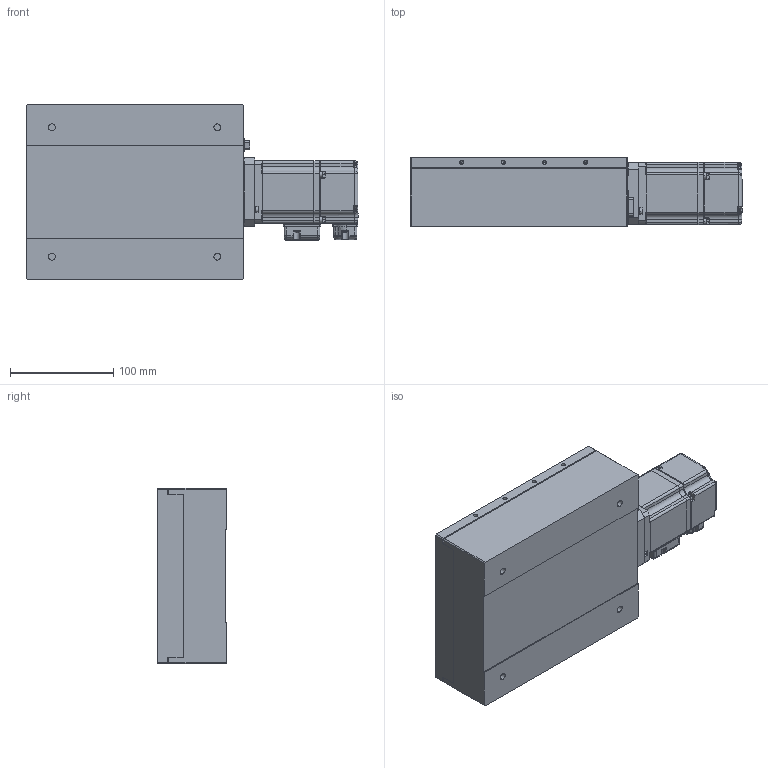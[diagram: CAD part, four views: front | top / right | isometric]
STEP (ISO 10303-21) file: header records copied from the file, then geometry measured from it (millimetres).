
FILE_DESCRIPTION (( 'STEP AP203' ), '1' );
FILE_NAME ('NPS-AC-20-05x.STEP', '2019-09-11T06:24:35', ( '' ), ( '' ), 'SwSTEP 2.0', 'SolidWorks 2015', '' );
FILE_SCHEMA (( 'CONFIG_CONTROL_DESIGN' ));
Length unit declared in the file: millimetre
Products named in the file (3): NPS-AC-20-05x_移動部; NPS-AC-20-05x_固定部; NPS-AC-20-05x
Assembly tree (2 placements, depth 2):
  NPS-AC-20-05x
    NPS-AC-20-05x_移動部
    NPS-AC-20-05x_固定部
Bounding box: 321 x 67 x 170 mm (x, y, z)
Volume: 789359.3 mm3; surface area: 269999.5 mm2
Topology: 1 solids, 36 shells, 1029 faces, 2924 edges, 1940 vertices
Faces by surface type: plane 397, cylinder 395, bspline 160, cone 46, sphere 18, torus 13
Entity records: 42621 total; most frequent: CARTESIAN_POINT 17093, ORIENTED_EDGE 5061, DIRECTION 5057, EDGE_CURVE 2865, VERTEX_POINT 1922, AXIS2_PLACEMENT_3D 1801, VECTOR 1455, LINE 1455
